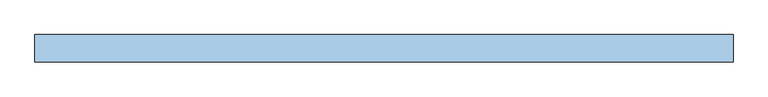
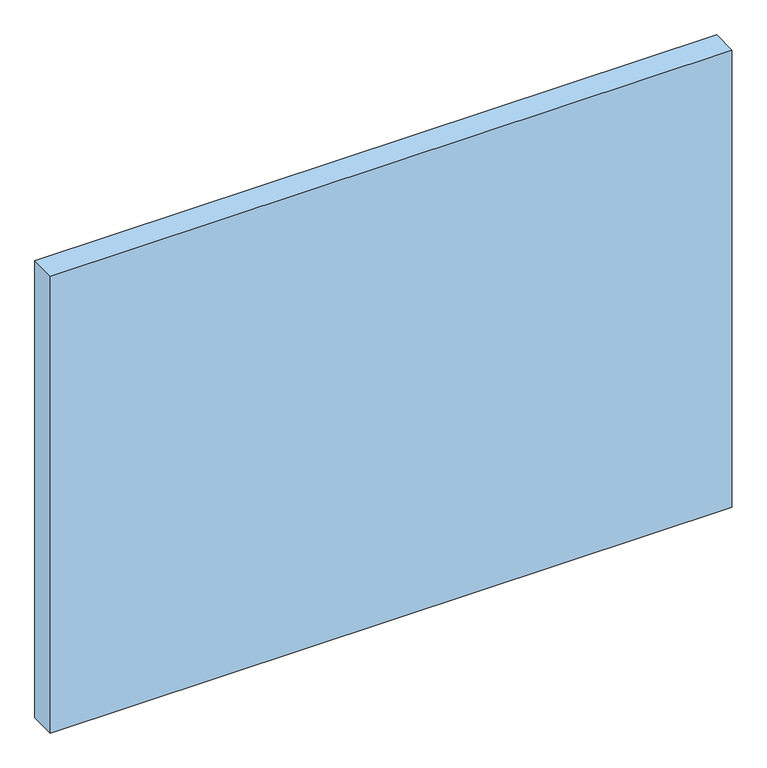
"""IFC4 building model written with IfcOpenShell, lengths in millimetres: window geometry, Dr_Проем-Четверти_окно : ОК."""

from ifc_helpers import new_model, si_unit, frame, origin, place, context, project, spatial, polyline, outline, extrude, source, transform, mapped, element, save


def window_78d310ad(model_context):
    return source(origin(), model_context, "Body", "SweptSolid", [
        extrude(outline(polyline([(2055.0, -50.0), (-1785.0, -50.0), (-1785.0, 100.0), (2055.0, 100.0), (2055.0, -50.0)])), frame((0.0, 0.0, -60.0), z_axis=(0.0, 0.0, 1.0), x_axis=(1.0, 0.0, 0.0)), (0.0, 0.0, 1.0), 2720.0),
    ])


if __name__ == "__main__":
    model = new_model("IFC4")
    model_context = context("Model", 3, world=origin())
    ifc_project = project(units=[si_unit("LENGTHUNIT", "METRE", prefix="MILLI")], contexts=[model_context])
    site = spatial("IfcSite", under=ifc_project)
    building = spatial("IfcBuilding", under=site)
    placement = place(None, origin())
    window_shape = window_78d310ad(model_context)
    element("IfcWindow", 1, ObjectType="Dr_Проем-Четверти_окно : ОК", at=placement, inside=building, context=model_context, shape_type="MappedRepresentation", body=[
        mapped(window_shape, transform((0.0, 0.0, 0.0), x_axis=(1.0, 0.0, 0.0), y_axis=(0.0, 1.0, 0.0), z_axis=(0.0, 0.0, 1.0))),
    ])
    save(model, "model.ifc")
